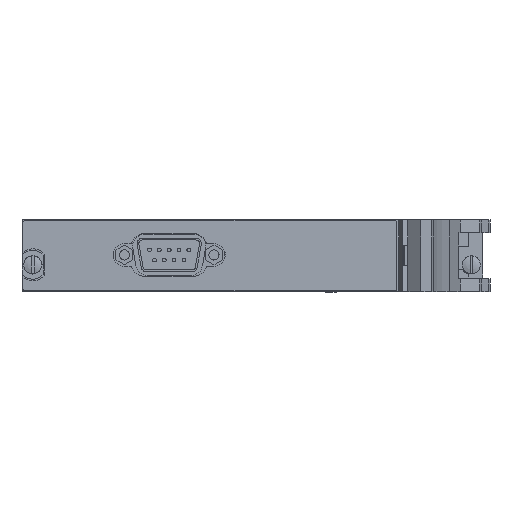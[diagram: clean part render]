
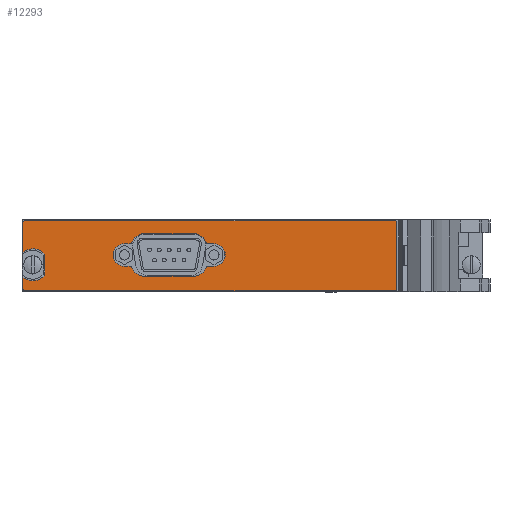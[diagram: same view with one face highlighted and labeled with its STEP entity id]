
A CAD part, left-side view. The second image highlights one B-rep face of the part: STEP entity #12293.
In plain terms, the highlighted planar face has unit normal (-1, 0, 0).
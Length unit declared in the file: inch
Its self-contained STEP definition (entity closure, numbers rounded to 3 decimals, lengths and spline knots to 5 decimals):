
#3213=CARTESIAN_POINT('',(-0.215,0.527,0.665));
#3214=DIRECTION('',(-1.,0.,0.));
#3215=DIRECTION('',(0.,0.,1.));
#3216=AXIS2_PLACEMENT_3D('',#3213,#3214,#3215);
#3218=DIRECTION('',(0.,1.,0.));
#3219=VECTOR('',#3218,4.07);
#3220=CARTESIAN_POINT('',(-0.215,-3.543,0.685));
#3221=LINE('',#3220,#3219);
#3222=CARTESIAN_POINT('',(-0.215,-3.543,0.665));
#3223=DIRECTION('',(-1.,0.,0.));
#3224=DIRECTION('',(0.,-1.,0.));
#3225=AXIS2_PLACEMENT_3D('',#3222,#3223,#3224);
#3227=DIRECTION('',(0.,0.,1.));
#3228=VECTOR('',#3227,0.728);
#3229=CARTESIAN_POINT('',(-0.215,-3.563,-0.063));
#3230=LINE('',#3229,#3228);
#3231=CARTESIAN_POINT('',(-0.215,-3.543,-0.063));
#3232=DIRECTION('',(-1.,0.,0.));
#3233=DIRECTION('',(0.,0.,-1.));
#3234=AXIS2_PLACEMENT_3D('',#3231,#3232,#3233);
#3236=DIRECTION('',(0.,-1.,0.));
#3237=VECTOR('',#3236,4.07);
#3238=CARTESIAN_POINT('',(-0.215,0.527,-0.083));
#3239=LINE('',#3238,#3237);
#3240=CARTESIAN_POINT('',(-0.215,0.527,-0.063));
#3241=DIRECTION('',(-1.,0.,0.));
#3242=DIRECTION('',(0.,1.,0.));
#3243=AXIS2_PLACEMENT_3D('',#3240,#3241,#3242);
#3245=DIRECTION('',(0.,0.,-1.));
#3246=VECTOR('',#3245,0.1263);
#3247=CARTESIAN_POINT('',(-0.215,0.547,0.0633));
#3248=LINE('',#3247,#3246);
#3249=CARTESIAN_POINT('',(-0.215,0.439,0.201));
#3250=DIRECTION('',(1.,0.,0.));
#3251=DIRECTION('',(0.,-0.76,-0.65));
#3252=AXIS2_PLACEMENT_3D('',#3249,#3250,#3251);
#3254=DIRECTION('',(0.,0.,-1.));
#3255=VECTOR('',#3254,0.22747);
#3256=CARTESIAN_POINT('',(-0.215,0.306,0.31474));
#3257=LINE('',#3256,#3255);
#3258=CARTESIAN_POINT('',(-0.215,0.439,0.201));
#3259=DIRECTION('',(1.,0.,0.));
#3260=DIRECTION('',(0.,0.617,0.787));
#3261=AXIS2_PLACEMENT_3D('',#3258,#3259,#3260);
#3263=DIRECTION('',(0.,0.,-1.));
#3264=VECTOR('',#3263,0.3263);
#3265=CARTESIAN_POINT('',(-0.215,0.547,0.665));
#3266=LINE('',#3265,#3264);
#3267=CARTESIAN_POINT('',(-0.215,-1.55178,0.309));
#3268=DIRECTION('',(-1.,0.,0.));
#3269=DIRECTION('',(0.,0.,-1.));
#3270=AXIS2_PLACEMENT_3D('',#3267,#3268,#3269);
#3272=DIRECTION('',(0.,1.,0.));
#3273=VECTOR('',#3272,0.08145);
#3274=CARTESIAN_POINT('',(-0.215,-1.55178,0.434));
#3275=LINE('',#3274,#3273);
#3276=CARTESIAN_POINT('',(-0.215,-1.32563,0.3945));
#3277=DIRECTION('',(-1.,0.,0.));
#3278=DIRECTION('',(0.,-0.965,0.263));
#3279=AXIS2_PLACEMENT_3D('',#3276,#3277,#3278);
#3281=DIRECTION('',(0.,1.,0.));
#3282=VECTOR('',#3281,0.537);
#3283=CARTESIAN_POINT('',(-0.215,-1.32563,0.5445));
#3284=LINE('',#3283,#3282);
#3285=CARTESIAN_POINT('',(-0.215,-0.78863,0.3945));
#3286=DIRECTION('',(-1.,0.,0.));
#3287=DIRECTION('',(0.,0.,1.));
#3288=AXIS2_PLACEMENT_3D('',#3285,#3286,#3287);
#3290=DIRECTION('',(0.,1.,0.));
#3291=VECTOR('',#3290,0.076);
#3292=CARTESIAN_POINT('',(-0.215,-0.64392,0.434));
#3293=LINE('',#3292,#3291);
#3294=CARTESIAN_POINT('',(-0.215,-0.56792,0.309));
#3295=DIRECTION('',(-1.,0.,0.));
#3296=DIRECTION('',(0.,0.,1.));
#3297=AXIS2_PLACEMENT_3D('',#3294,#3295,#3296);
#3299=DIRECTION('',(0.,-1.,0.));
#3300=VECTOR('',#3299,0.076);
#3301=CARTESIAN_POINT('',(-0.215,-0.56792,0.184));
#3302=LINE('',#3301,#3300);
#3303=CARTESIAN_POINT('',(-0.215,-0.78863,0.2235));
#3304=DIRECTION('',(-1.,0.,0.));
#3305=DIRECTION('',(0.,0.965,-0.263));
#3306=AXIS2_PLACEMENT_3D('',#3303,#3304,#3305);
#3308=DIRECTION('',(0.,-1.,0.));
#3309=VECTOR('',#3308,0.537);
#3310=CARTESIAN_POINT('',(-0.215,-0.78863,0.0735));
#3311=LINE('',#3310,#3309);
#3312=CARTESIAN_POINT('',(-0.215,-1.32563,0.2235));
#3313=DIRECTION('',(-1.,0.,0.));
#3314=DIRECTION('',(0.,0.,-1.));
#3315=AXIS2_PLACEMENT_3D('',#3312,#3313,#3314);
#3317=DIRECTION('',(0.,-1.,0.));
#3318=VECTOR('',#3317,0.08145);
#3319=CARTESIAN_POINT('',(-0.215,-1.47033,0.184));
#3320=LINE('',#3319,#3318);
#7679=CARTESIAN_POINT('',(-0.215,0.527,0.685));
#7680=CARTESIAN_POINT('',(-0.215,0.547,0.665));
#7681=VERTEX_POINT('',#7679);
#7682=VERTEX_POINT('',#7680);
#7683=CARTESIAN_POINT('',(-0.215,0.547,0.3387));
#7684=VERTEX_POINT('',#7683);
#7685=CARTESIAN_POINT('',(-0.215,0.306,0.31474));
#7686=VERTEX_POINT('',#7685);
#7687=CARTESIAN_POINT('',(-0.215,0.306,0.08726));
#7688=VERTEX_POINT('',#7687);
#7689=CARTESIAN_POINT('',(-0.215,0.547,0.0633));
#7690=VERTEX_POINT('',#7689);
#7691=CARTESIAN_POINT('',(-0.215,0.547,-0.063));
#7692=VERTEX_POINT('',#7691);
#7693=CARTESIAN_POINT('',(-0.215,0.527,-0.083));
#7694=VERTEX_POINT('',#7693);
#7695=CARTESIAN_POINT('',(-0.215,-3.543,-0.083));
#7696=VERTEX_POINT('',#7695);
#7697=CARTESIAN_POINT('',(-0.215,-3.563,-0.063));
#7698=VERTEX_POINT('',#7697);
#7699=CARTESIAN_POINT('',(-0.215,-3.563,0.665));
#7700=VERTEX_POINT('',#7699);
#7701=CARTESIAN_POINT('',(-0.215,-3.543,0.685));
#7702=VERTEX_POINT('',#7701);
#7703=CARTESIAN_POINT('',(-0.215,-1.55178,0.184));
#7704=CARTESIAN_POINT('',(-0.215,-1.55178,0.434));
#7705=VERTEX_POINT('',#7703);
#7706=VERTEX_POINT('',#7704);
#7707=CARTESIAN_POINT('',(-0.215,-1.47033,0.434));
#7708=VERTEX_POINT('',#7707);
#7709=CARTESIAN_POINT('',(-0.215,-1.32563,0.5445));
#7710=VERTEX_POINT('',#7709);
#7711=CARTESIAN_POINT('',(-0.215,-0.78863,0.5445));
#7712=VERTEX_POINT('',#7711);
#7713=CARTESIAN_POINT('',(-0.215,-0.64392,0.434));
#7714=VERTEX_POINT('',#7713);
#7715=CARTESIAN_POINT('',(-0.215,-0.56792,0.434));
#7716=VERTEX_POINT('',#7715);
#7717=CARTESIAN_POINT('',(-0.215,-0.56792,0.184));
#7718=VERTEX_POINT('',#7717);
#7719=CARTESIAN_POINT('',(-0.215,-0.64392,0.184));
#7720=VERTEX_POINT('',#7719);
#7721=CARTESIAN_POINT('',(-0.215,-1.47033,0.184));
#7722=VERTEX_POINT('',#7721);
#7723=CARTESIAN_POINT('',(-0.215,-0.78863,0.0735));
#7724=VERTEX_POINT('',#7723);
#7725=CARTESIAN_POINT('',(-0.215,-1.32563,0.0735));
#7726=VERTEX_POINT('',#7725);
#12248=CARTESIAN_POINT('',(-0.215,0.439,0.201));
#12249=DIRECTION('',(-1.,0.,0.));
#12250=DIRECTION('',(0.,0.,1.));
#12251=AXIS2_PLACEMENT_3D('',#12248,#12249,#12250);
#12252=PLANE('',#12251);
#12253=ORIENTED_EDGE('',*,*,#12088,.F.);
#12254=ORIENTED_EDGE('',*,*,#12103,.F.);
#12255=ORIENTED_EDGE('',*,*,#12117,.F.);
#12256=ORIENTED_EDGE('',*,*,#12131,.F.);
#12257=ORIENTED_EDGE('',*,*,#12145,.F.);
#12258=ORIENTED_EDGE('',*,*,#12159,.F.);
#12259=ORIENTED_EDGE('',*,*,#12173,.F.);
#12260=ORIENTED_EDGE('',*,*,#12187,.F.);
#12261=ORIENTED_EDGE('',*,*,#12201,.F.);
#12262=ORIENTED_EDGE('',*,*,#12215,.F.);
#12263=ORIENTED_EDGE('',*,*,#12229,.F.);
#12264=ORIENTED_EDGE('',*,*,#12242,.F.);
#12265=EDGE_LOOP('',(#12253,#12254,#12255,#12256,#12257,#12258,#12259,#12260,
#12261,#12262,#12263,#12264));
#12266=FACE_OUTER_BOUND('',#12265,.F.);
#12268=ORIENTED_EDGE('',*,*,#12267,.T.);
#12270=ORIENTED_EDGE('',*,*,#12269,.T.);
#12272=ORIENTED_EDGE('',*,*,#12271,.T.);
#12274=ORIENTED_EDGE('',*,*,#12273,.T.);
#12276=ORIENTED_EDGE('',*,*,#12275,.T.);
#12278=ORIENTED_EDGE('',*,*,#12277,.T.);
#12280=ORIENTED_EDGE('',*,*,#12279,.T.);
#12282=ORIENTED_EDGE('',*,*,#12281,.T.);
#12284=ORIENTED_EDGE('',*,*,#12283,.T.);
#12286=ORIENTED_EDGE('',*,*,#12285,.T.);
#12288=ORIENTED_EDGE('',*,*,#12287,.T.);
#12290=ORIENTED_EDGE('',*,*,#12289,.T.);
#12291=EDGE_LOOP('',(#12268,#12270,#12272,#12274,#12276,#12278,#12280,#12282,
#12284,#12286,#12288,#12290));
#12292=FACE_BOUND('',#12291,.F.);
#12293=ADVANCED_FACE('',(#12266,#12292),#12252,.T.);
#3217=CIRCLE('',#3216,0.02);
#3226=CIRCLE('',#3225,0.02);
#3235=CIRCLE('',#3234,0.02);
#3244=CIRCLE('',#3243,0.02);
#3253=CIRCLE('',#3252,0.175);
#3262=CIRCLE('',#3261,0.175);
#3271=CIRCLE('',#3270,0.125);
#3280=CIRCLE('',#3279,0.15);
#3289=CIRCLE('',#3288,0.15);
#3298=CIRCLE('',#3297,0.125);
#3307=CIRCLE('',#3306,0.15);
#3316=CIRCLE('',#3315,0.15);
#12088=EDGE_CURVE('',#7681,#7682,#3217,.T.);
#12103=EDGE_CURVE('',#7702,#7681,#3221,.T.);
#12117=EDGE_CURVE('',#7700,#7702,#3226,.T.);
#12131=EDGE_CURVE('',#7698,#7700,#3230,.T.);
#12145=EDGE_CURVE('',#7696,#7698,#3235,.T.);
#12159=EDGE_CURVE('',#7694,#7696,#3239,.T.);
#12173=EDGE_CURVE('',#7692,#7694,#3244,.T.);
#12187=EDGE_CURVE('',#7690,#7692,#3248,.T.);
#12201=EDGE_CURVE('',#7688,#7690,#3253,.T.);
#12215=EDGE_CURVE('',#7686,#7688,#3257,.T.);
#12229=EDGE_CURVE('',#7684,#7686,#3262,.T.);
#12242=EDGE_CURVE('',#7682,#7684,#3266,.T.);
#12267=EDGE_CURVE('',#7705,#7706,#3271,.T.);
#12269=EDGE_CURVE('',#7706,#7708,#3275,.T.);
#12271=EDGE_CURVE('',#7708,#7710,#3280,.T.);
#12273=EDGE_CURVE('',#7710,#7712,#3284,.T.);
#12275=EDGE_CURVE('',#7712,#7714,#3289,.T.);
#12277=EDGE_CURVE('',#7714,#7716,#3293,.T.);
#12279=EDGE_CURVE('',#7716,#7718,#3298,.T.);
#12281=EDGE_CURVE('',#7718,#7720,#3302,.T.);
#12283=EDGE_CURVE('',#7720,#7724,#3307,.T.);
#12285=EDGE_CURVE('',#7724,#7726,#3311,.T.);
#12287=EDGE_CURVE('',#7726,#7722,#3316,.T.);
#12289=EDGE_CURVE('',#7722,#7705,#3320,.T.);
